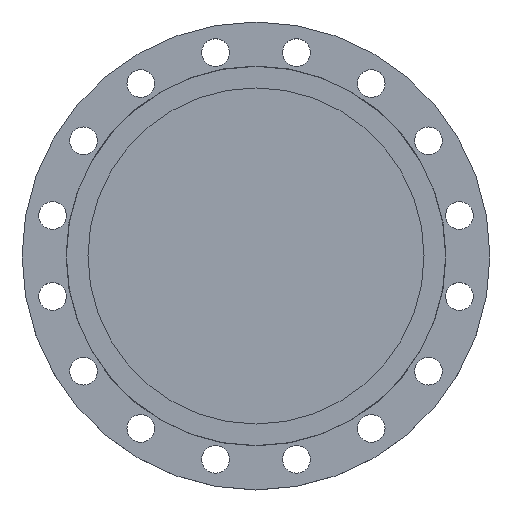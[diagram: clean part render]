
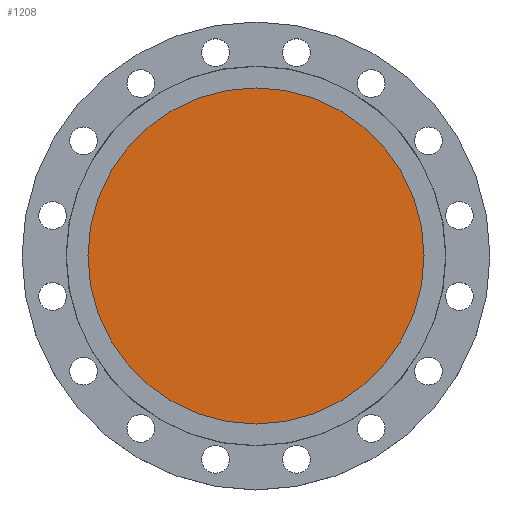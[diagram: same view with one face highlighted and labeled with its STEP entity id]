
A CAD part, top view. The second image highlights one B-rep face of the part: STEP entity #1208.
In plain terms, the highlighted planar face has unit normal (0, 0, 1).
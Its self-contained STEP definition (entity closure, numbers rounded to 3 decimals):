
#31 = AXIS2_PLACEMENT_3D ( 'NONE', #73, #72, #71 ) ;
#71 = DIRECTION ( 'NONE',  ( 1., 0., 0. ) ) ;
#72 = DIRECTION ( 'NONE',  ( 0., 0., 1. ) ) ;
#73 = CARTESIAN_POINT ( 'NONE',  ( 237., 0., -5. ) ) ;
#74 = PLANE ( 'NONE',  #31 ) ;
#75 = FACE_OUTER_BOUND ( 'NONE', #705, .T. ) ;
#83 = DIRECTION ( 'NONE',  ( -1., 0., 0. ) ) ;
#84 = DIRECTION ( 'NONE',  ( 0., 0., -1. ) ) ;
#85 = CARTESIAN_POINT ( 'NONE',  ( 0., 0., -5. ) ) ;
#205 = EDGE_CURVE ( 'NONE', #687, #684, #1482, .T. ) ;
#456 = CARTESIAN_POINT ( 'NONE',  ( 237., 0., -5. ) ) ;
#458 = CARTESIAN_POINT ( 'NONE',  ( -237., 0., -5. ) ) ;
#575 = AXIS2_PLACEMENT_3D ( 'NONE', #627, #625, #624 ) ;
#624 = DIRECTION ( 'NONE',  ( -1., 0., 0. ) ) ;
#625 = DIRECTION ( 'NONE',  ( 0., 0., -1. ) ) ;
#627 = CARTESIAN_POINT ( 'NONE',  ( 0., 0., -5. ) ) ;
#684 = VERTEX_POINT ( 'NONE', #458 ) ;
#687 = VERTEX_POINT ( 'NONE', #456 ) ;
#705 = EDGE_LOOP ( 'NONE', ( #1021, #1022 ) ) ;
#863 = CIRCLE ( 'NONE', #865, 237. ) ;
#865 = AXIS2_PLACEMENT_3D ( 'NONE', #85, #84, #83 ) ;
#1021 = ORIENTED_EDGE ( 'NONE', *, *, #1203, .F. ) ;
#1022 = ORIENTED_EDGE ( 'NONE', *, *, #205, .F. ) ;
#1203 = EDGE_CURVE ( 'NONE', #684, #687, #863, .T. ) ;
#1208 = ADVANCED_FACE ( 'NONE', ( #75 ), #74, .T. ) ;
#1482 = CIRCLE ( 'NONE', #575, 237. ) ;
